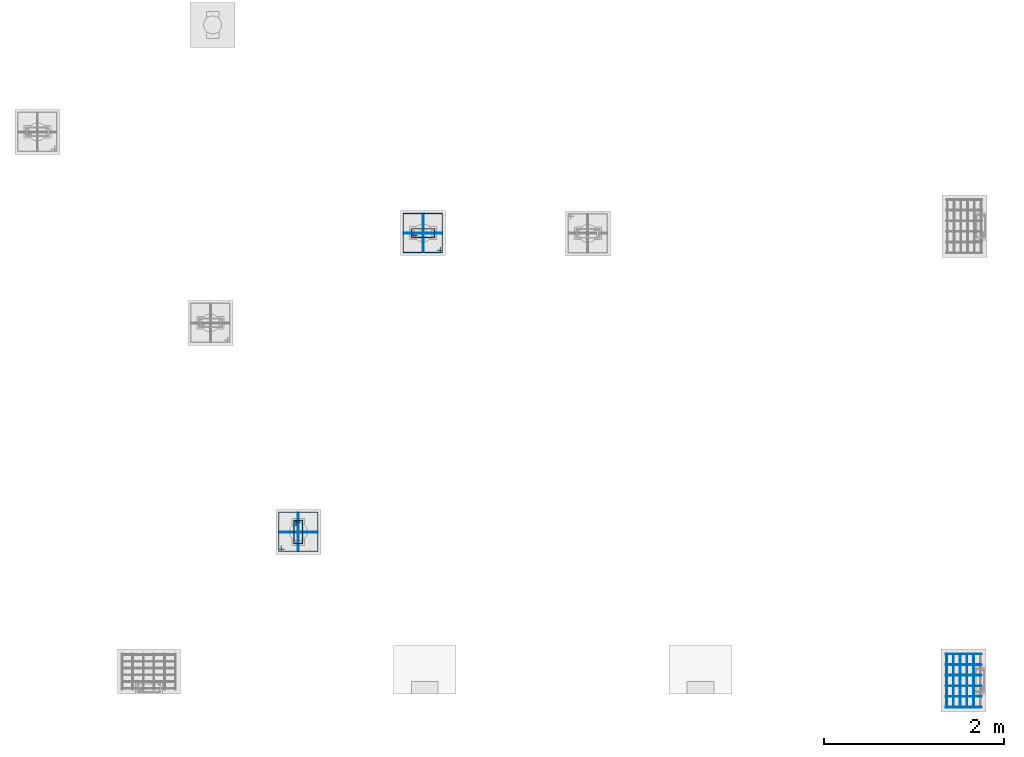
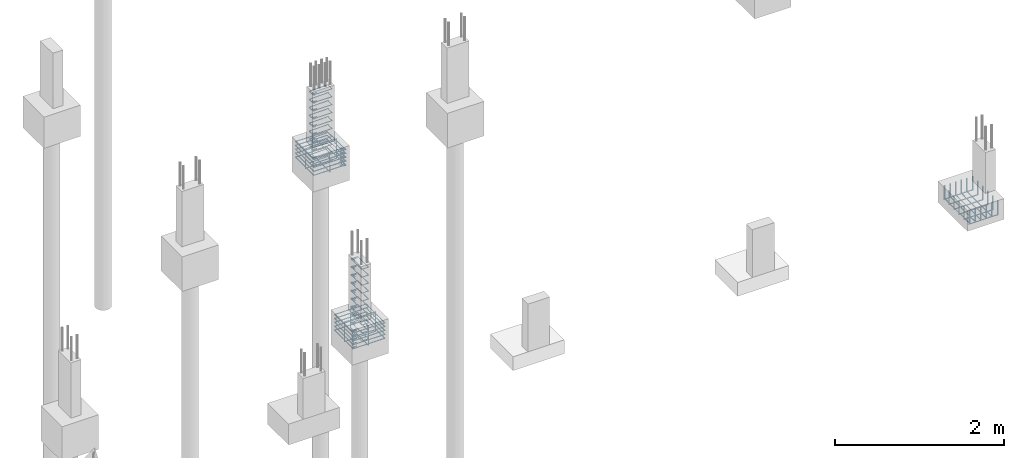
# One storey, part 93 of 119: 45 reinforcing bars.
"""IFC4 building model written with IfcOpenShell, lengths in centimetres."""

from ifc_helpers import new_model, entity, si_unit, derived_unit, frame, origin_with_axes, place, context, project, spatial, source, transform, mapped, element, save


model = new_model("IFC4")

# Units and contexts
model_context = context("Model", 3, precision=1e-05, world=origin_with_axes(), identifier="Body")
ifc_project = project(units=[si_unit("LENGTHUNIT", "METRE", prefix="CENTI"), si_unit("VOLUMEUNIT", "CUBIC_METRE"), si_unit("AREAUNIT", "SQUARE_METRE"), si_unit("POWERUNIT", "WATT"), si_unit("LUMINOUSFLUXUNIT", "LUMEN"), si_unit("ELECTRICCURRENTUNIT", "AMPERE"), si_unit("PRESSUREUNIT", "PASCAL", prefix="KILO"), si_unit("MASSUNIT", "GRAM", prefix="KILO"), si_unit("PLANEANGLEUNIT", "RADIAN"), derived_unit("VOLUMETRICFLOWRATEUNIT", [(si_unit("LENGTHUNIT", "METRE"), 3), (si_unit("TIMEUNIT", "SECOND"), -1)])], contexts=[model_context])

# Site, building, storey
site_placement = place(None, frame((-4000.0, 0.0, 0.0), z_axis=(0.0, 0.0, 1.0), x_axis=(1.0, 0.0, 0.0)))
site = spatial("IfcSite", under=ifc_project, at=site_placement, Name="PADRÃO")
building_placement = place(site_placement, frame((0.0, 0.0, -14.0)))
building = spatial("IfcBuilding", under=site, at=building_placement, Name="CRECHE PRÉ-ESCOLA TIPO 2")
storey_placement = place(building_placement, origin_with_axes())
storey = spatial("IfcBuildingStorey", under=building, at=storey_placement, Name="FUNDAÇÃO", CompositionType="ELEMENT", Elevation=-14.0)

# Reinforcing bars
shared_shape_1 = source(origin_with_axes(), model_context, "Body", "AdvancedSweptSolid", [
    entity("IfcSweptDiskSolid", entity("IfcCompositeCurve", [entity("IfcCompositeCurveSegment", "CONTINUOUS", True, entity("IfcPolyline", [entity("IfcCartesianPoint", [0.0, 0.0, 19.6]), entity("IfcCartesianPoint", [0.0, 0.0, 0.0])])), entity("IfcCompositeCurveSegment", "CONTINUOUS", True, entity("IfcPolyline", [entity("IfcCartesianPoint", [0.0, 0.0, 0.0]), entity("IfcCartesianPoint", [39.2, 0.0, 0.0])])), entity("IfcCompositeCurveSegment", "CONTINUOUS", True, entity("IfcPolyline", [entity("IfcCartesianPoint", [39.2, 0.0, 0.0]), entity("IfcCartesianPoint", [39.2, 0.0, 19.6])]))], False), 0.4),
])
for number, where, z_axis, x_axis, name in (
    (1, (3993.6, 46.6, -83.6), (0.0, 0.0, 1.0), (-1.0, 0.0, 0.0), "P168 - Sapatas (inferior)"),
    (2, (3993.6, -0.76, -83.6), (0.0, 0.0, 1.0), (-1.0, 0.0, 0.0), "P168 - Sapatas (inferior)"),
    (3, (3993.6, -12.6, -83.6), (0.0, 0.0, 1.0), (-1.0, 0.0, 0.0), "P168 - Sapatas (inferior)"),
    (4, (3993.6, 11.08, -83.6), (0.0, 0.0, 1.0), (-1.0, 0.0, 0.0), "P168 - Sapatas (inferior)"),
    (5, (3993.6, 22.92, -83.6), (0.0, 0.0, 1.0), (-1.0, 0.0, 0.0), "P168 - Sapatas (inferior)"),
    (6, (3993.6, 34.76, -83.6), (0.0, 0.0, 1.0), (-1.0, 0.0, 0.0), "P168 - Sapatas (inferior)"),
):
    element("IfcReinforcingBar", number, at=place(storey_placement, frame(where, z_axis=z_axis, x_axis=x_axis)), inside=storey, Name=name, BarLength=0.0, CrossSectionArea=5.0265482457e-05, NominalDiameter=0.8, PredefinedType="MAIN", context=model_context, shape_type="MappedRepresentation", body=[
        mapped(shared_shape_1, transform((0.0, 0.0, 0.0), scale=1.0)),
    ])
shared_shape_2 = source(origin_with_axes(), model_context, "Body", "AdvancedSweptSolid", [
    entity("IfcSweptDiskSolid", entity("IfcCompositeCurve", [entity("IfcCompositeCurveSegment", "CONTINUOUS", True, entity("IfcPolyline", [entity("IfcCartesianPoint", [0.0, 0.0, 18.8]), entity("IfcCartesianPoint", [0.0, 0.0, 0.0])])), entity("IfcCompositeCurveSegment", "CONTINUOUS", True, entity("IfcPolyline", [entity("IfcCartesianPoint", [0.0, 0.0, 0.0]), entity("IfcCartesianPoint", [0.0, 59.2, 0.0])])), entity("IfcCompositeCurveSegment", "CONTINUOUS", True, entity("IfcPolyline", [entity("IfcCartesianPoint", [0.0, 59.2, 0.0]), entity("IfcCartesianPoint", [0.0, 59.2, 18.8])]))], False), 0.4),
])
for number, where, z_axis, x_axis, name in (
    (7, (3962.72, 46.6, -82.8), (0.0, 0.0, 1.0), (-1.0, 0.0, 0.0), "P168 - Sapatas (inferior)"),
    (8, (3985.28, 46.6, -82.8), (0.0, 0.0, 1.0), (-1.0, 0.0, 0.0), "P168 - Sapatas (inferior)"),
    (9, (3977.76, 46.6, -82.8), (0.0, 0.0, 1.0), (-1.0, 0.0, 0.0), "P168 - Sapatas (inferior)"),
    (10, (3955.2, 46.6, -82.8), (0.0, 0.0, 1.0), (-1.0, 0.0, 0.0), "P168 - Sapatas (inferior)"),
    (11, (3970.24, 46.6, -82.8), (0.0, 0.0, 1.0), (-1.0, 0.0, 0.0), "P168 - Sapatas (inferior)"),
):
    element("IfcReinforcingBar", number, at=place(storey_placement, frame(where, z_axis=z_axis, x_axis=x_axis)), inside=storey, Name=name, BarLength=0.0, CrossSectionArea=5.0265482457e-05, NominalDiameter=0.8, PredefinedType="MAIN", context=model_context, shape_type="MappedRepresentation", body=[
        mapped(shared_shape_2, transform((0.0, 0.0, 0.0), scale=1.0)),
    ])
shared_shape_3 = source(origin_with_axes(), model_context, "Body", "AdvancedSweptSolid", [
    entity("IfcSweptDiskSolid", entity("IfcCompositeCurve", [entity("IfcCompositeCurveSegment", "CONTINUOUS", True, entity("IfcPolyline", [entity("IfcCartesianPoint", [4.25, 21.75, 0.0]), entity("IfcCartesianPoint", [4.25, 27.75, 0.0])])), entity("IfcCompositeCurveSegment", "CONTINUOUS", True, entity("IfcPolyline", [entity("IfcCartesianPoint", [4.25, 27.75, 0.0]), entity("IfcCartesianPoint", [2.25, 27.75, 0.0])])), entity("IfcCompositeCurveSegment", "CONTINUOUS", True, entity("IfcPolyline", [entity("IfcCartesianPoint", [2.25, 27.75, 0.0]), entity("IfcCartesianPoint", [2.25, 2.25, 0.0])])), entity("IfcCompositeCurveSegment", "CONTINUOUS", True, entity("IfcPolyline", [entity("IfcCartesianPoint", [2.25, 2.25, 0.0]), entity("IfcCartesianPoint", [11.75, 2.25, 0.0])])), entity("IfcCompositeCurveSegment", "CONTINUOUS", True, entity("IfcPolyline", [entity("IfcCartesianPoint", [11.75, 2.25, 0.0]), entity("IfcCartesianPoint", [11.75, 27.75, -0.5])])), entity("IfcCompositeCurveSegment", "CONTINUOUS", True, entity("IfcPolyline", [entity("IfcCartesianPoint", [11.75, 27.75, -0.5]), entity("IfcCartesianPoint", [2.25, 27.75, -0.5])])), entity("IfcCompositeCurveSegment", "CONTINUOUS", True, entity("IfcPolyline", [entity("IfcCartesianPoint", [2.25, 27.75, -0.5]), entity("IfcCartesianPoint", [2.25, 25.75, -0.5])])), entity("IfcCompositeCurveSegment", "CONTINUOUS", True, entity("IfcPolyline", [entity("IfcCartesianPoint", [2.25, 25.75, -0.5]), entity("IfcCartesianPoint", [8.25, 25.75, -0.5])]))], False), 0.25),
])
for number, where, z_axis, x_axis, name in (
    (12, (3226.99, 167.5, -97.75), (0.0, 0.0, 1.0), (1.0, 0.0, 0.0), "P154 - Estribo"),
    (13, (3226.99, 167.5, -109.25), (0.0, 0.0, 1.0), (1.0, 0.0, 0.0), "P154 - Estribo"),
    (14, (3226.99, 167.5, -74.75), (0.0, 0.0, 1.0), (1.0, 0.0, 0.0), "P154 - Estribo"),
    (15, (3226.99, 167.5, -63.25), (0.0, 0.0, 1.0), (1.0, 0.0, 0.0), "P154 - Estribo"),
    (16, (3226.99, 167.5, -51.75), (0.0, 0.0, 1.0), (1.0, 0.0, 0.0), "P154 - Estribo"),
    (17, (3226.99, 167.5, -40.25), (0.0, 0.0, 1.0), (1.0, 0.0, 0.0), "P154 - Estribo"),
    (18, (3226.99, 167.5, -28.75), (0.0, 0.0, 1.0), (1.0, 0.0, 0.0), "P154 - Estribo"),
    (19, (3226.99, 167.5, -17.25), (0.0, 0.0, 1.0), (1.0, 0.0, 0.0), "P154 - Estribo"),
    (20, (3226.99, 167.5, -5.75), (0.0, 0.0, 1.0), (1.0, 0.0, 0.0), "P154 - Estribo"),
    (21, (3226.99, 167.5, -86.25), (0.0, 0.0, 1.0), (1.0, 0.0, 0.0), "P154 - Estribo"),
):
    element("IfcReinforcingBar", number, at=place(storey_placement, frame(where, z_axis=z_axis, x_axis=x_axis)), inside=storey, Name=name, BarLength=0.0, CrossSectionArea=1.9634954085e-05, NominalDiameter=0.5, PredefinedType="MAIN", context=model_context, shape_type="MappedRepresentation", body=[
        mapped(shared_shape_3, transform((0.0, 0.0, 0.0), scale=1.0)),
    ])
shared_shape_4 = source(origin_with_axes(), model_context, "Body", "AdvancedSweptSolid", [
    entity("IfcSweptDiskSolid", entity("IfcCompositeCurve", [entity("IfcCompositeCurveSegment", "CONTINUOUS", True, entity("IfcPolyline", [entity("IfcCartesianPoint", [3218.565, 163.335, 0.0]), entity("IfcCartesianPoint", [3212.305, 163.335, 0.0])])), entity("IfcCompositeCurveSegment", "CONTINUOUS", True, entity("IfcPolyline", [entity("IfcCartesianPoint", [3212.305, 163.335, 0.0]), entity("IfcCartesianPoint", [3212.305, 160.815, 0.0])])), entity("IfcCompositeCurveSegment", "CONTINUOUS", True, entity("IfcPolyline", [entity("IfcCartesianPoint", [3212.305, 160.815, 0.0]), entity("IfcCartesianPoint", [3255.675, 160.815, 0.0])])), entity("IfcCompositeCurveSegment", "CONTINUOUS", True, entity("IfcPolyline", [entity("IfcCartesianPoint", [3255.675, 160.815, 0.0]), entity("IfcCartesianPoint", [3255.675, 204.185, 0.63])])), entity("IfcCompositeCurveSegment", "CONTINUOUS", True, entity("IfcPolyline", [entity("IfcCartesianPoint", [3255.675, 204.185, 0.63]), entity("IfcCartesianPoint", [3212.305, 204.185, 0.63])])), entity("IfcCompositeCurveSegment", "CONTINUOUS", True, entity("IfcPolyline", [entity("IfcCartesianPoint", [3212.305, 204.185, 0.63]), entity("IfcCartesianPoint", [3212.305, 160.815, 0.63])])), entity("IfcCompositeCurveSegment", "CONTINUOUS", True, entity("IfcPolyline", [entity("IfcCartesianPoint", [3212.305, 160.815, 0.63]), entity("IfcCartesianPoint", [3214.825, 160.815, 0.63])])), entity("IfcCompositeCurveSegment", "CONTINUOUS", True, entity("IfcPolyline", [entity("IfcCartesianPoint", [3214.825, 160.815, 0.63]), entity("IfcCartesianPoint", [3214.825, 167.075, 0.63])]))], False), 0.315),
])
for number, where, z_axis, x_axis, name in (
    (22, (0.0, 0.0, -86.575), (0.0, 0.0, 1.0), (1.0, 0.0, 0.0), "P154 - Blocos (estribos)"),
    (23, (0.0, 0.0, -92.225), (0.0, 0.0, 1.0), (1.0, 0.0, 0.0), "P154 - Blocos (estribos)"),
    (24, (0.0, 0.0, -109.175), (0.0, 0.0, 1.0), (1.0, 0.0, 0.0), "P154 - Blocos (estribos)"),
    (25, (0.0, 0.0, -103.525), (0.0, 0.0, 1.0), (1.0, 0.0, 0.0), "P154 - Blocos (estribos)"),
    (26, (0.0, 0.0, -97.875), (0.0, 0.0, 1.0), (1.0, 0.0, 0.0), "P154 - Blocos (estribos)"),
):
    element("IfcReinforcingBar", number, at=place(storey_placement, frame(where, z_axis=z_axis, x_axis=x_axis)), inside=storey, Name=name, BarLength=0.0, CrossSectionArea=3.1172453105e-05, NominalDiameter=0.63, PredefinedType="MAIN", context=model_context, shape_type="MappedRepresentation", body=[
        mapped(shared_shape_4, transform((0.0, 0.0, 0.0), scale=1.0)),
    ])
shared_shape_5 = source(origin_with_axes(), model_context, "Body", "AdvancedSweptSolid", [
    entity("IfcSweptDiskSolid", entity("IfcCompositeCurve", [entity("IfcCompositeCurveSegment", "CONTINUOUS", True, entity("IfcPolyline", [entity("IfcCartesianPoint", [-15.12, -12.0, 0.0]), entity("IfcCartesianPoint", [-21.12, -12.0, 0.0])])), entity("IfcCompositeCurveSegment", "CONTINUOUS", True, entity("IfcPolyline", [entity("IfcCartesianPoint", [-21.12, -12.0, 0.0]), entity("IfcCartesianPoint", [-21.12, -14.0, 0.0])])), entity("IfcCompositeCurveSegment", "CONTINUOUS", True, entity("IfcPolyline", [entity("IfcCartesianPoint", [-21.12, -14.0, 0.0]), entity("IfcCartesianPoint", [21.12, -14.0, 0.0])])), entity("IfcCompositeCurveSegment", "CONTINUOUS", True, entity("IfcPolyline", [entity("IfcCartesianPoint", [21.12, -14.0, 0.0]), entity("IfcCartesianPoint", [21.12, 14.0, 0.5])])), entity("IfcCompositeCurveSegment", "CONTINUOUS", True, entity("IfcPolyline", [entity("IfcCartesianPoint", [21.12, 14.0, 0.5]), entity("IfcCartesianPoint", [-21.12, 14.0, 0.5])])), entity("IfcCompositeCurveSegment", "CONTINUOUS", True, entity("IfcPolyline", [entity("IfcCartesianPoint", [-21.12, 14.0, 0.5]), entity("IfcCartesianPoint", [-21.12, -14.0, 0.5])])), entity("IfcCompositeCurveSegment", "CONTINUOUS", True, entity("IfcPolyline", [entity("IfcCartesianPoint", [-21.12, -14.0, 0.5]), entity("IfcCartesianPoint", [-19.12, -14.0, 0.5])])), entity("IfcCompositeCurveSegment", "CONTINUOUS", True, entity("IfcPolyline", [entity("IfcCartesianPoint", [-19.12, -14.0, 0.5]), entity("IfcCartesianPoint", [-19.12, -8.0, 0.5])]))], False), 0.25),
])
reinforcing_bar_1_placement = place(storey_placement, frame((3233.99, 182.5, -97.75), z_axis=(-1.0, 0.0, 0.0), x_axis=(0.0, 1.0, 0.0)))
element("IfcReinforcingBar", 27, at=reinforcing_bar_1_placement, inside=storey, Name="P154 - Blocos (estribos)", BarLength=0.0, CrossSectionArea=1.9634954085e-05, NominalDiameter=0.5, PredefinedType="MAIN", context=model_context, shape_type="MappedRepresentation", body=[
    mapped(shared_shape_5, transform((0.0, 0.0, 0.0), scale=1.0)),
])
shared_shape_6 = source(origin_with_axes(), model_context, "Body", "AdvancedSweptSolid", [
    entity("IfcSweptDiskSolid", entity("IfcCompositeCurve", [entity("IfcCompositeCurveSegment", "CONTINUOUS", True, entity("IfcPolyline", [entity("IfcCartesianPoint", [-15.12, -12.0, 0.0]), entity("IfcCartesianPoint", [-21.12, -12.0, 0.0])])), entity("IfcCompositeCurveSegment", "CONTINUOUS", True, entity("IfcPolyline", [entity("IfcCartesianPoint", [-21.12, -12.0, 0.0]), entity("IfcCartesianPoint", [-21.12, -14.0, 0.0])])), entity("IfcCompositeCurveSegment", "CONTINUOUS", True, entity("IfcPolyline", [entity("IfcCartesianPoint", [-21.12, -14.0, 0.0]), entity("IfcCartesianPoint", [21.12, -14.0, 0.0])])), entity("IfcCompositeCurveSegment", "CONTINUOUS", True, entity("IfcPolyline", [entity("IfcCartesianPoint", [21.12, -14.0, 0.0]), entity("IfcCartesianPoint", [21.12, 14.0, 0.5])])), entity("IfcCompositeCurveSegment", "CONTINUOUS", True, entity("IfcPolyline", [entity("IfcCartesianPoint", [21.12, 14.0, 0.5]), entity("IfcCartesianPoint", [-21.12, 14.0, 0.5])])), entity("IfcCompositeCurveSegment", "CONTINUOUS", True, entity("IfcPolyline", [entity("IfcCartesianPoint", [-21.12, 14.0, 0.5]), entity("IfcCartesianPoint", [-21.12, -14.0, 0.5])])), entity("IfcCompositeCurveSegment", "CONTINUOUS", True, entity("IfcPolyline", [entity("IfcCartesianPoint", [-21.12, -14.0, 0.5]), entity("IfcCartesianPoint", [-19.12, -14.0, 0.5])])), entity("IfcCompositeCurveSegment", "CONTINUOUS", True, entity("IfcPolyline", [entity("IfcCartesianPoint", [-19.12, -14.0, 0.5]), entity("IfcCartesianPoint", [-19.12, -8.0, 0.5])]))], False), 0.25),
])
reinforcing_bar_2_placement = place(storey_placement, frame((3233.99, 182.5, -97.75), z_axis=(0.0, -1.0, 0.0), x_axis=(-1.0, 0.0, 0.0)))
element("IfcReinforcingBar", 28, at=reinforcing_bar_2_placement, inside=storey, Name="P154 - Blocos (estribos)", BarLength=0.0, CrossSectionArea=1.9634954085e-05, NominalDiameter=0.5, PredefinedType="MAIN", context=model_context, shape_type="MappedRepresentation", body=[
    mapped(shared_shape_6, transform((0.0, 0.0, 0.0), scale=1.0)),
])
shared_shape_7 = source(origin_with_axes(), model_context, "Body", "AdvancedSweptSolid", [
    entity("IfcSweptDiskSolid", entity("IfcCompositeCurve", [entity("IfcCompositeCurveSegment", "CONTINUOUS", True, entity("IfcPolyline", [entity("IfcCartesianPoint", [4.25, 21.75, 0.0]), entity("IfcCartesianPoint", [4.25, 27.75, 0.0])])), entity("IfcCompositeCurveSegment", "CONTINUOUS", True, entity("IfcPolyline", [entity("IfcCartesianPoint", [4.25, 27.75, 0.0]), entity("IfcCartesianPoint", [2.25, 27.75, 0.0])])), entity("IfcCompositeCurveSegment", "CONTINUOUS", True, entity("IfcPolyline", [entity("IfcCartesianPoint", [2.25, 27.75, 0.0]), entity("IfcCartesianPoint", [2.25, 2.25, 0.0])])), entity("IfcCompositeCurveSegment", "CONTINUOUS", True, entity("IfcPolyline", [entity("IfcCartesianPoint", [2.25, 2.25, 0.0]), entity("IfcCartesianPoint", [11.75, 2.25, 0.0])])), entity("IfcCompositeCurveSegment", "CONTINUOUS", True, entity("IfcPolyline", [entity("IfcCartesianPoint", [11.75, 2.25, 0.0]), entity("IfcCartesianPoint", [11.75, 27.75, -0.5])])), entity("IfcCompositeCurveSegment", "CONTINUOUS", True, entity("IfcPolyline", [entity("IfcCartesianPoint", [11.75, 27.75, -0.5]), entity("IfcCartesianPoint", [2.25, 27.75, -0.5])])), entity("IfcCompositeCurveSegment", "CONTINUOUS", True, entity("IfcPolyline", [entity("IfcCartesianPoint", [2.25, 27.75, -0.5]), entity("IfcCartesianPoint", [2.25, 25.75, -0.5])])), entity("IfcCompositeCurveSegment", "CONTINUOUS", True, entity("IfcPolyline", [entity("IfcCartesianPoint", [2.25, 25.75, -0.5]), entity("IfcCartesianPoint", [8.25, 25.75, -0.5])]))], False), 0.25),
])
for number, where, z_axis, x_axis, name in (
    (29, (3387.5, 508.01, -51.75), (0.0, 0.0, 1.0), (0.0, 1.0, 0.0), "P140 - Estribo"),
    (30, (3387.5, 508.01, -109.25), (0.0, 0.0, 1.0), (0.0, 1.0, 0.0), "P140 - Estribo"),
    (31, (3387.5, 508.01, -28.75), (0.0, 0.0, 1.0), (0.0, 1.0, 0.0), "P140 - Estribo"),
    (32, (3387.5, 508.01, -17.25), (0.0, 0.0, 1.0), (0.0, 1.0, 0.0), "P140 - Estribo"),
    (33, (3387.5, 508.01, -5.75), (0.0, 0.0, 1.0), (0.0, 1.0, 0.0), "P140 - Estribo"),
    (34, (3387.5, 508.01, -97.75), (0.0, 0.0, 1.0), (0.0, 1.0, 0.0), "P140 - Estribo"),
    (35, (3387.5, 508.01, -86.25), (0.0, 0.0, 1.0), (0.0, 1.0, 0.0), "P140 - Estribo"),
    (36, (3387.5, 508.01, -74.75), (0.0, 0.0, 1.0), (0.0, 1.0, 0.0), "P140 - Estribo"),
    (37, (3387.5, 508.01, -63.25), (0.0, 0.0, 1.0), (0.0, 1.0, 0.0), "P140 - Estribo"),
    (38, (3387.5, 508.01, -40.25), (0.0, 0.0, 1.0), (0.0, 1.0, 0.0), "P140 - Estribo"),
):
    element("IfcReinforcingBar", number, at=place(storey_placement, frame(where, z_axis=z_axis, x_axis=x_axis)), inside=storey, Name=name, BarLength=0.0, CrossSectionArea=1.9634954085e-05, NominalDiameter=0.5, PredefinedType="MAIN", context=model_context, shape_type="MappedRepresentation", body=[
        mapped(shared_shape_7, transform((0.0, 0.0, 0.0), scale=1.0)),
    ])
shared_shape_8 = source(origin_with_axes(), model_context, "Body", "AdvancedSweptSolid", [
    entity("IfcSweptDiskSolid", entity("IfcCompositeCurve", [entity("IfcCompositeCurveSegment", "CONTINUOUS", True, entity("IfcPolyline", [entity("IfcCartesianPoint", [3391.665, 499.585, 0.0]), entity("IfcCartesianPoint", [3391.665, 493.325, 0.0])])), entity("IfcCompositeCurveSegment", "CONTINUOUS", True, entity("IfcPolyline", [entity("IfcCartesianPoint", [3391.665, 493.325, 0.0]), entity("IfcCartesianPoint", [3394.185, 493.325, 0.0])])), entity("IfcCompositeCurveSegment", "CONTINUOUS", True, entity("IfcPolyline", [entity("IfcCartesianPoint", [3394.185, 493.325, 0.0]), entity("IfcCartesianPoint", [3394.185, 536.695, 0.0])])), entity("IfcCompositeCurveSegment", "CONTINUOUS", True, entity("IfcPolyline", [entity("IfcCartesianPoint", [3394.185, 536.695, 0.0]), entity("IfcCartesianPoint", [3350.815, 536.695, 0.63])])), entity("IfcCompositeCurveSegment", "CONTINUOUS", True, entity("IfcPolyline", [entity("IfcCartesianPoint", [3350.815, 536.695, 0.63]), entity("IfcCartesianPoint", [3350.815, 493.325, 0.63])])), entity("IfcCompositeCurveSegment", "CONTINUOUS", True, entity("IfcPolyline", [entity("IfcCartesianPoint", [3350.815, 493.325, 0.63]), entity("IfcCartesianPoint", [3394.185, 493.325, 0.63])])), entity("IfcCompositeCurveSegment", "CONTINUOUS", True, entity("IfcPolyline", [entity("IfcCartesianPoint", [3394.185, 493.325, 0.63]), entity("IfcCartesianPoint", [3394.185, 495.845, 0.63])])), entity("IfcCompositeCurveSegment", "CONTINUOUS", True, entity("IfcPolyline", [entity("IfcCartesianPoint", [3394.185, 495.845, 0.63]), entity("IfcCartesianPoint", [3387.925, 495.845, 0.63])]))], False), 0.315),
])
for number, where, z_axis, x_axis, name in (
    (39, (0.0, 0.0, -92.225), (0.0, 0.0, 1.0), (1.0, 0.0, 0.0), "P140 - Blocos (estribos)"),
    (40, (0.0, 0.0, -86.575), (0.0, 0.0, 1.0), (1.0, 0.0, 0.0), "P140 - Blocos (estribos)"),
    (41, (0.0, 0.0, -109.175), (0.0, 0.0, 1.0), (1.0, 0.0, 0.0), "P140 - Blocos (estribos)"),
    (42, (0.0, 0.0, -97.875), (0.0, 0.0, 1.0), (1.0, 0.0, 0.0), "P140 - Blocos (estribos)"),
    (43, (0.0, 0.0, -103.525), (0.0, 0.0, 1.0), (1.0, 0.0, 0.0), "P140 - Blocos (estribos)"),
):
    element("IfcReinforcingBar", number, at=place(storey_placement, frame(where, z_axis=z_axis, x_axis=x_axis)), inside=storey, Name=name, BarLength=0.0, CrossSectionArea=3.1172453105e-05, NominalDiameter=0.63, PredefinedType="MAIN", context=model_context, shape_type="MappedRepresentation", body=[
        mapped(shared_shape_8, transform((0.0, 0.0, 0.0), scale=1.0)),
    ])
shared_shape_9 = source(origin_with_axes(), model_context, "Body", "AdvancedSweptSolid", [
    entity("IfcSweptDiskSolid", entity("IfcCompositeCurve", [entity("IfcCompositeCurveSegment", "CONTINUOUS", True, entity("IfcPolyline", [entity("IfcCartesianPoint", [-15.12, -12.0, 0.0]), entity("IfcCartesianPoint", [-21.12, -12.0, 0.0])])), entity("IfcCompositeCurveSegment", "CONTINUOUS", True, entity("IfcPolyline", [entity("IfcCartesianPoint", [-21.12, -12.0, 0.0]), entity("IfcCartesianPoint", [-21.12, -14.0, 0.0])])), entity("IfcCompositeCurveSegment", "CONTINUOUS", True, entity("IfcPolyline", [entity("IfcCartesianPoint", [-21.12, -14.0, 0.0]), entity("IfcCartesianPoint", [21.12, -14.0, 0.0])])), entity("IfcCompositeCurveSegment", "CONTINUOUS", True, entity("IfcPolyline", [entity("IfcCartesianPoint", [21.12, -14.0, 0.0]), entity("IfcCartesianPoint", [21.12, 14.0, 0.5])])), entity("IfcCompositeCurveSegment", "CONTINUOUS", True, entity("IfcPolyline", [entity("IfcCartesianPoint", [21.12, 14.0, 0.5]), entity("IfcCartesianPoint", [-21.12, 14.0, 0.5])])), entity("IfcCompositeCurveSegment", "CONTINUOUS", True, entity("IfcPolyline", [entity("IfcCartesianPoint", [-21.12, 14.0, 0.5]), entity("IfcCartesianPoint", [-21.12, -14.0, 0.5])])), entity("IfcCompositeCurveSegment", "CONTINUOUS", True, entity("IfcPolyline", [entity("IfcCartesianPoint", [-21.12, -14.0, 0.5]), entity("IfcCartesianPoint", [-19.12, -14.0, 0.5])])), entity("IfcCompositeCurveSegment", "CONTINUOUS", True, entity("IfcPolyline", [entity("IfcCartesianPoint", [-19.12, -14.0, 0.5]), entity("IfcCartesianPoint", [-19.12, -8.0, 0.5])]))], False), 0.25),
])
reinforcing_bar_3_placement = place(storey_placement, frame((3372.5, 515.01, -97.75), z_axis=(0.0, -1.0, 0.0), x_axis=(-1.0, 0.0, 0.0)))
element("IfcReinforcingBar", 44, at=reinforcing_bar_3_placement, inside=storey, Name="P140 - Blocos (estribos)", BarLength=0.0, CrossSectionArea=1.9634954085e-05, NominalDiameter=0.5, PredefinedType="MAIN", context=model_context, shape_type="MappedRepresentation", body=[
    mapped(shared_shape_9, transform((0.0, 0.0, 0.0), scale=1.0)),
])
shared_shape_10 = source(origin_with_axes(), model_context, "Body", "AdvancedSweptSolid", [
    entity("IfcSweptDiskSolid", entity("IfcCompositeCurve", [entity("IfcCompositeCurveSegment", "CONTINUOUS", True, entity("IfcPolyline", [entity("IfcCartesianPoint", [-15.12, -12.0, 0.0]), entity("IfcCartesianPoint", [-21.12, -12.0, 0.0])])), entity("IfcCompositeCurveSegment", "CONTINUOUS", True, entity("IfcPolyline", [entity("IfcCartesianPoint", [-21.12, -12.0, 0.0]), entity("IfcCartesianPoint", [-21.12, -14.0, 0.0])])), entity("IfcCompositeCurveSegment", "CONTINUOUS", True, entity("IfcPolyline", [entity("IfcCartesianPoint", [-21.12, -14.0, 0.0]), entity("IfcCartesianPoint", [21.12, -14.0, 0.0])])), entity("IfcCompositeCurveSegment", "CONTINUOUS", True, entity("IfcPolyline", [entity("IfcCartesianPoint", [21.12, -14.0, 0.0]), entity("IfcCartesianPoint", [21.12, 14.0, 0.5])])), entity("IfcCompositeCurveSegment", "CONTINUOUS", True, entity("IfcPolyline", [entity("IfcCartesianPoint", [21.12, 14.0, 0.5]), entity("IfcCartesianPoint", [-21.12, 14.0, 0.5])])), entity("IfcCompositeCurveSegment", "CONTINUOUS", True, entity("IfcPolyline", [entity("IfcCartesianPoint", [-21.12, 14.0, 0.5]), entity("IfcCartesianPoint", [-21.12, -14.0, 0.5])])), entity("IfcCompositeCurveSegment", "CONTINUOUS", True, entity("IfcPolyline", [entity("IfcCartesianPoint", [-21.12, -14.0, 0.5]), entity("IfcCartesianPoint", [-19.12, -14.0, 0.5])])), entity("IfcCompositeCurveSegment", "CONTINUOUS", True, entity("IfcPolyline", [entity("IfcCartesianPoint", [-19.12, -14.0, 0.5]), entity("IfcCartesianPoint", [-19.12, -8.0, 0.5])]))], False), 0.25),
])
reinforcing_bar_4_placement = place(storey_placement, frame((3372.5, 515.01, -97.75), z_axis=(1.0, 0.0, 0.0), x_axis=(0.0, -1.0, 0.0)))
element("IfcReinforcingBar", 45, at=reinforcing_bar_4_placement, inside=storey, Name="P140 - Blocos (estribos)", BarLength=0.0, CrossSectionArea=1.9634954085e-05, NominalDiameter=0.5, PredefinedType="MAIN", context=model_context, shape_type="MappedRepresentation", body=[
    mapped(shared_shape_10, transform((0.0, 0.0, 0.0), scale=1.0)),
])

save(model, "model.ifc")
